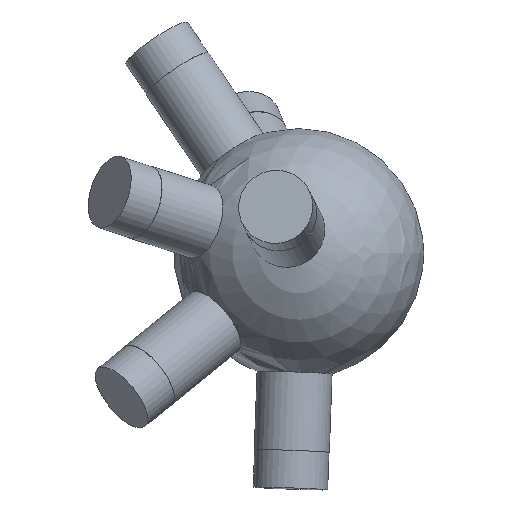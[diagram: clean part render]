
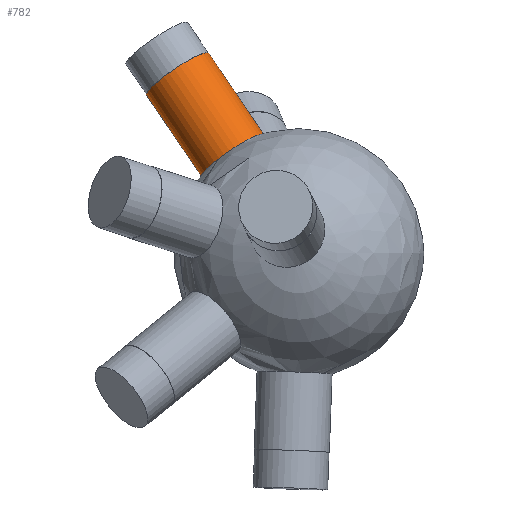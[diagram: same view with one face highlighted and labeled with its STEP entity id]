
A CAD part, top view. The second image highlights one B-rep face of the part: STEP entity #782.
In plain terms, the highlighted cylindrical face has radius 6 mm (diameter 12 mm), a full revolution.
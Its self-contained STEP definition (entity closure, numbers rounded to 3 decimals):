
#33 = SPHERICAL_SURFACE('',#34,20.);
#34 = AXIS2_PLACEMENT_3D('',#35,#36,#37);
#35 = CARTESIAN_POINT('',(0.,0.,0.));
#36 = DIRECTION('',(0.,0.,1.));
#37 = DIRECTION('',(1.,0.,-0.));
#323 = EDGE_CURVE('',#324,#324,#326,.T.);
#324 = VERTEX_POINT('',#325);
#325 = CARTESIAN_POINT('',(-5.577,18.966,
    -3.031));
#326 = SURFACE_CURVE('',#327,(#332,#394),.PCURVE_S1.);
#327 = CIRCLE('',#328,6.);
#328 = AXIS2_PLACEMENT_3D('',#329,#330,#331);
#329 = CARTESIAN_POINT('',(-10.548,15.606,
    -3.031));
#330 = DIRECTION('',(-0.553,0.818,-0.159));
#331 = DIRECTION('',(-0.829,-0.56,0.
    ));
#332 = PCURVE('',#33,#333);
#333 = DEFINITIONAL_REPRESENTATION('',(#334),#393);
#334 = B_SPLINE_CURVE_WITH_KNOTS('',8,(#335,#336,#337,#338,#339,#340,
    #341,#342,#343,#344,#345,#346,#347,#348,#349,#350,#351,#352,#353,
    #354,#355,#356,#357,#358,#359,#360,#361,#362,#363,#364,#365,#366,
    #367,#368,#369,#370,#371,#372,#373,#374,#375,#376,#377,#378,#379,
    #380,#381,#382,#383,#384,#385,#386,#387,#388,#389,#390,#391,#392),
  .UNSPECIFIED.,.F.,.F.,(9,7,7,7,7,7,7,7,9),(3.142,
    3.927,4.614,5.216,6.268,
    7.057,7.649,8.537,9.425),
  .UNSPECIFIED.);
#335 = CARTESIAN_POINT('',(1.857,-0.152));
#336 = CARTESIAN_POINT('',(1.855,-0.182));
#337 = CARTESIAN_POINT('',(1.857,-0.211));
#338 = CARTESIAN_POINT('',(1.862,-0.24));
#339 = CARTESIAN_POINT('',(1.87,-0.269));
#340 = CARTESIAN_POINT('',(1.882,-0.297));
#341 = CARTESIAN_POINT('',(1.897,-0.323));
#342 = CARTESIAN_POINT('',(1.915,-0.347));
#343 = CARTESIAN_POINT('',(1.954,-0.389));
#344 = CARTESIAN_POINT('',(1.975,-0.406));
#345 = CARTESIAN_POINT('',(1.997,-0.422));
#346 = CARTESIAN_POINT('',(2.022,-0.435));
#347 = CARTESIAN_POINT('',(2.048,-0.446));
#348 = CARTESIAN_POINT('',(2.075,-0.454));
#349 = CARTESIAN_POINT('',(2.104,-0.46));
#350 = CARTESIAN_POINT('',(2.157,-0.465));
#351 = CARTESIAN_POINT('',(2.183,-0.465));
#352 = CARTESIAN_POINT('',(2.208,-0.464));
#353 = CARTESIAN_POINT('',(2.233,-0.46));
#354 = CARTESIAN_POINT('',(2.257,-0.453));
#355 = CARTESIAN_POINT('',(2.281,-0.445));
#356 = CARTESIAN_POINT('',(2.303,-0.435));
#357 = CARTESIAN_POINT('',(2.361,-0.403));
#358 = CARTESIAN_POINT('',(2.394,-0.377));
#359 = CARTESIAN_POINT('',(2.422,-0.346));
#360 = CARTESIAN_POINT('',(2.444,-0.312));
#361 = CARTESIAN_POINT('',(2.46,-0.275));
#362 = CARTESIAN_POINT('',(2.471,-0.236));
#363 = CARTESIAN_POINT('',(2.475,-0.196));
#364 = CARTESIAN_POINT('',(2.473,-0.127));
#365 = CARTESIAN_POINT('',(2.468,-0.098));
#366 = CARTESIAN_POINT('',(2.461,-0.069));
#367 = CARTESIAN_POINT('',(2.451,-0.041));
#368 = CARTESIAN_POINT('',(2.437,-0.014));
#369 = CARTESIAN_POINT('',(2.421,0.011));
#370 = CARTESIAN_POINT('',(2.403,0.035));
#371 = CARTESIAN_POINT('',(2.366,0.071));
#372 = CARTESIAN_POINT('',(2.349,0.086));
#373 = CARTESIAN_POINT('',(2.331,0.099));
#374 = CARTESIAN_POINT('',(2.311,0.11));
#375 = CARTESIAN_POINT('',(2.291,0.12));
#376 = CARTESIAN_POINT('',(2.27,0.128));
#377 = CARTESIAN_POINT('',(2.249,0.134));
#378 = CARTESIAN_POINT('',(2.194,0.146));
#379 = CARTESIAN_POINT('',(2.16,0.148));
#380 = CARTESIAN_POINT('',(2.126,0.147));
#381 = CARTESIAN_POINT('',(2.092,0.141));
#382 = CARTESIAN_POINT('',(2.06,0.131));
#383 = CARTESIAN_POINT('',(2.029,0.117));
#384 = CARTESIAN_POINT('',(2.,0.099));
#385 = CARTESIAN_POINT('',(1.948,0.057));
#386 = CARTESIAN_POINT('',(1.925,0.033));
#387 = CARTESIAN_POINT('',(1.904,0.007));
#388 = CARTESIAN_POINT('',(1.887,-0.023));
#389 = CARTESIAN_POINT('',(1.874,-0.054));
#390 = CARTESIAN_POINT('',(1.864,-0.086));
#391 = CARTESIAN_POINT('',(1.858,-0.119));
#392 = CARTESIAN_POINT('',(1.857,-0.152));
#393 = ( GEOMETRIC_REPRESENTATION_CONTEXT(2) 
PARAMETRIC_REPRESENTATION_CONTEXT() REPRESENTATION_CONTEXT('2D SPACE',''
  ) );
#394 = PCURVE('',#395,#400);
#395 = CYLINDRICAL_SURFACE('',#396,6.);
#396 = AXIS2_PLACEMENT_3D('',#397,#398,#399);
#397 = CARTESIAN_POINT('',(0.,0.,0.));
#398 = DIRECTION('',(-0.553,0.818,-0.159));
#399 = DIRECTION('',(0.829,0.56,0.));
#400 = DEFINITIONAL_REPRESENTATION('',(#401),#405);
#401 = LINE('',#402,#403);
#402 = CARTESIAN_POINT('',(-3.142,19.079));
#403 = VECTOR('',#404,1.);
#404 = DIRECTION('',(1.,0.));
#405 = ( GEOMETRIC_REPRESENTATION_CONTEXT(2) 
PARAMETRIC_REPRESENTATION_CONTEXT() REPRESENTATION_CONTEXT('2D SPACE',''
  ) );
#782 = ADVANCED_FACE('',(#783),#395,.T.);
#783 = FACE_BOUND('',#784,.T.);
#784 = EDGE_LOOP('',(#785,#808,#835,#836));
#785 = ORIENTED_EDGE('',*,*,#786,.T.);
#786 = EDGE_CURVE('',#324,#787,#789,.T.);
#787 = VERTEX_POINT('',#788);
#788 = CARTESIAN_POINT('',(-14.4,32.021,
    -5.567));
#789 = SEAM_CURVE('',#790,(#794,#801),.PCURVE_S1.);
#790 = LINE('',#791,#792);
#791 = CARTESIAN_POINT('',(4.971,3.36,
    0.));
#792 = VECTOR('',#793,1.);
#793 = DIRECTION('',(-0.553,0.818,-0.159));
#794 = PCURVE('',#395,#795);
#795 = DEFINITIONAL_REPRESENTATION('',(#796),#800);
#796 = LINE('',#797,#798);
#797 = CARTESIAN_POINT('',(6.283,-0.));
#798 = VECTOR('',#799,1.);
#799 = DIRECTION('',(0.,1.));
#800 = ( GEOMETRIC_REPRESENTATION_CONTEXT(2) 
PARAMETRIC_REPRESENTATION_CONTEXT() REPRESENTATION_CONTEXT('2D SPACE',''
  ) );
#801 = PCURVE('',#395,#802);
#802 = DEFINITIONAL_REPRESENTATION('',(#803),#807);
#803 = LINE('',#804,#805);
#804 = CARTESIAN_POINT('',(0.,-0.));
#805 = VECTOR('',#806,1.);
#806 = DIRECTION('',(0.,1.));
#807 = ( GEOMETRIC_REPRESENTATION_CONTEXT(2) 
PARAMETRIC_REPRESENTATION_CONTEXT() REPRESENTATION_CONTEXT('2D SPACE',''
  ) );
#808 = ORIENTED_EDGE('',*,*,#809,.F.);
#809 = EDGE_CURVE('',#787,#787,#810,.T.);
#810 = SURFACE_CURVE('',#811,(#816,#823),.PCURVE_S1.);
#811 = CIRCLE('',#812,6.);
#812 = AXIS2_PLACEMENT_3D('',#813,#814,#815);
#813 = CARTESIAN_POINT('',(-19.371,28.661,
    -5.567));
#814 = DIRECTION('',(-0.553,0.818,-0.159));
#815 = DIRECTION('',(0.829,0.56,0.));
#816 = PCURVE('',#395,#817);
#817 = DEFINITIONAL_REPRESENTATION('',(#818),#822);
#818 = LINE('',#819,#820);
#819 = CARTESIAN_POINT('',(0.,35.039));
#820 = VECTOR('',#821,1.);
#821 = DIRECTION('',(1.,0.));
#822 = ( GEOMETRIC_REPRESENTATION_CONTEXT(2) 
PARAMETRIC_REPRESENTATION_CONTEXT() REPRESENTATION_CONTEXT('2D SPACE',''
  ) );
#823 = PCURVE('',#824,#829);
#824 = PLANE('',#825);
#825 = AXIS2_PLACEMENT_3D('',#826,#827,#828);
#826 = CARTESIAN_POINT('',(-19.371,28.661,
    -5.567));
#827 = DIRECTION('',(-0.553,0.818,-0.159));
#828 = DIRECTION('',(0.829,0.56,0.));
#829 = DEFINITIONAL_REPRESENTATION('',(#830),#834);
#830 = CIRCLE('',#831,6.);
#831 = AXIS2_PLACEMENT_2D('',#832,#833);
#832 = CARTESIAN_POINT('',(0.,0.));
#833 = DIRECTION('',(1.,0.));
#834 = ( GEOMETRIC_REPRESENTATION_CONTEXT(2) 
PARAMETRIC_REPRESENTATION_CONTEXT() REPRESENTATION_CONTEXT('2D SPACE',''
  ) );
#835 = ORIENTED_EDGE('',*,*,#786,.F.);
#836 = ORIENTED_EDGE('',*,*,#323,.T.);
